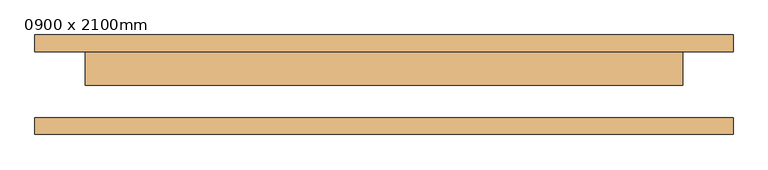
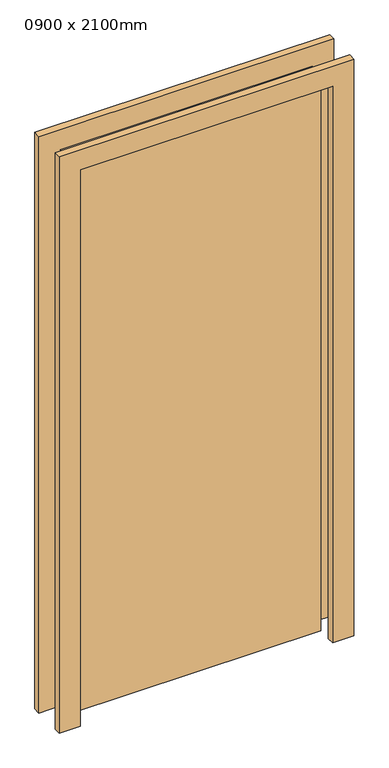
"""IFC4 building model written with IfcOpenShell, lengths in millimetres: door geometry, M_Folha única : 0900 x 2100mm."""

from ifc_helpers import new_model, si_unit, frame, origin, origin_with_axes, place, context, project, spatial, polyline, outline, extrude, source, transform, mapped, element, save


def door_0900_x_2100mm_e1aad0e5(model_context):
    return source(origin(), model_context, "Body", "SweptSolid", [
        extrude(outline(polyline([(2176.0, -526.0), (0.0, -526.0), (0.0, -450.0), (2100.0, -450.0), (2100.0, 450.0), (0.0, 450.0), (0.0, 526.0), (2176.0, 526.0), (2176.0, -526.0)])), frame((0.0, 50.0, 0.0), z_axis=(0.0, 1.0, 0.0), x_axis=(0.0, 0.0, 1.0)), (0.0, 0.0, 1.0), 25.0),
        extrude(outline(polyline([(2176.0, 526.0), (2176.0, -526.0), (0.0, -526.0), (0.0, -450.0), (2100.0, -450.0), (2100.0, 450.0), (0.0, 450.0), (0.0, 526.0), (2176.0, 526.0)])), frame((0.0, -75.0, 0.0), z_axis=(0.0, 1.0, 0.0), x_axis=(0.0, 0.0, 1.0)), (0.0, 0.0, 1.0), 25.0),
        extrude(outline(polyline([(450.0, -1.0), (-450.0, -1.0), (-450.0, 50.0), (450.0, 50.0), (450.0, -1.0)])), origin_with_axes(), (0.0, 0.0, 1.0), 2100.0),
    ])


if __name__ == "__main__":
    model = new_model("IFC4")
    model_context = context("Model", 3, world=origin())
    ifc_project = project(units=[si_unit("LENGTHUNIT", "METRE", prefix="MILLI")], contexts=[model_context])
    site = spatial("IfcSite", under=ifc_project)
    building = spatial("IfcBuilding", under=site)
    placement = place(None, origin())
    door_0900_x_2100mm_shape = door_0900_x_2100mm_e1aad0e5(model_context)
    element("IfcDoor", 1, ObjectType="M_Folha única : 0900 x 2100mm", at=placement, inside=building, context=model_context, shape_type="MappedRepresentation", body=[
        mapped(door_0900_x_2100mm_shape, transform((0.0, 0.0, 0.0), x_axis=(1.0, 0.0, 0.0), y_axis=(0.0, 1.0, 0.0), z_axis=(0.0, 0.0, 1.0))),
    ])
    save(model, "model.ifc")
